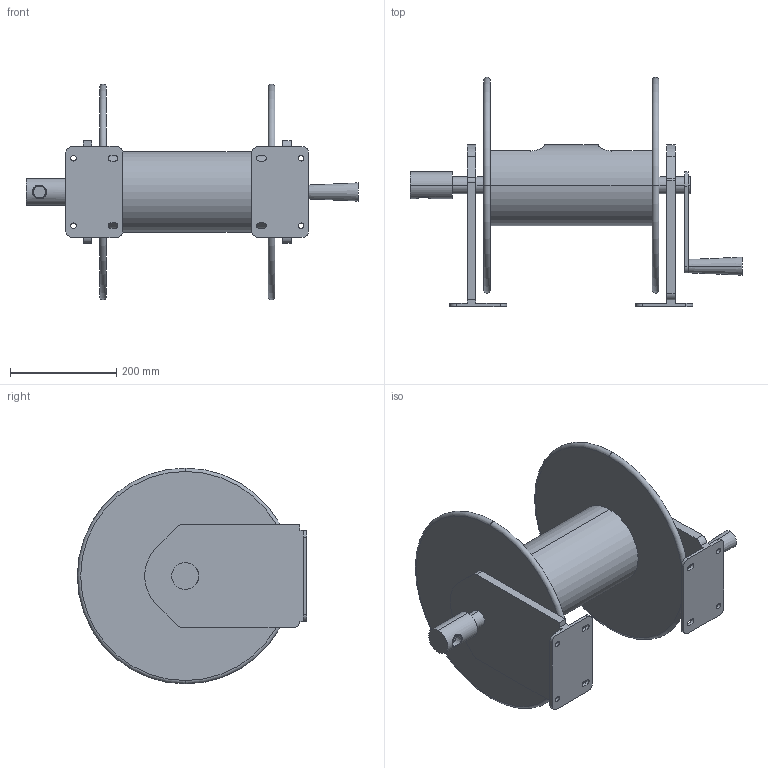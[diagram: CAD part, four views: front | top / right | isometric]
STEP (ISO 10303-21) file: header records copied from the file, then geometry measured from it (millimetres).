
FILE_DESCRIPTION((''),'2;1');
FILE_NAME('C23012_H_WEB','2025-09-08T13:03:24',('Mike.Papaik'),(''),'CREO PARAMETRIC BY PTC INC, 2023154','CREO PARAMETRIC BY PTC INC, 2023154','');
FILE_SCHEMA(('CONFIG_CONTROL_DESIGN'));
Length unit declared in the file: inch
Products named in the file (1): C23012_H_WEB
Bounding box: 625.17 x 431.8 x 406.4 mm (x, y, z)
Volume: 6265772.6 mm3; surface area: 1158655.6 mm2
Topology: 1 solids, 6 shells, 155 faces, 401 edges, 270 vertices
Faces by surface type: plane 66, cylinder 63, cone 22, torus 4
Entity records: 5018 total; most frequent: CARTESIAN_POINT 976, DIRECTION 884, ORIENTED_EDGE 782, EDGE_CURVE 401, AXIS2_PLACEMENT_3D 342, VERTEX_POINT 270, VECTOR 200, LINE 200
